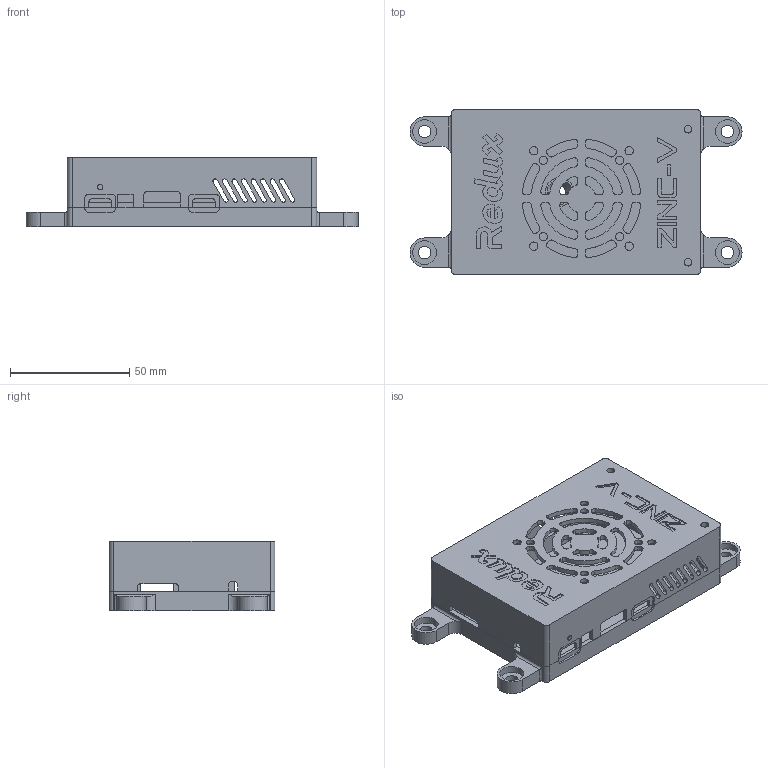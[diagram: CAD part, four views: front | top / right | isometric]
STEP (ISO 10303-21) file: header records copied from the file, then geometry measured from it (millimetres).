
FILE_DESCRIPTION(/* description */ ('STEP AP242','CAx-IF Rec.Pracs.---Representation and Presentation of Product Manufacturing Information (PMI)---4.0---2014-10-13','CAx-IF Rec.Pracs.---3D Tessellated Geometry---0.4---2014-09-14','2;1'),/* implementation_level */ '2;1');
FILE_NAME(/* name */ 'ZINCVOPICASE',/* time_stamp */ '2024-09-15T14:14:34Z');
FILE_SCHEMA (('AP242_MANAGED_MODEL_BASED_3D_ENGINEERING_MIM_LF { 1 0 10303 442 1 1 4 }'));
Length unit declared in the file: metre
Products named in the file (2): LockingOpi5-Base; LockingOpi5-Lid
Bounding box: 139.3 x 69.5 x 29.2 mm (x, y, z)
Volume: 49738.4 mm3; surface area: 49880.7 mm2
Topology: 2 solids, 2 shells, 705 faces, 2005 edges, 1334 vertices
Faces by surface type: plane 446, cylinder 251, cone 4, bspline 4
Entity records: 23221 total; most frequent: CARTESIAN_POINT 4162, ORIENTED_EDGE 4010, DIRECTION 3889, EDGE_CURVE 2005, LINE 1487, VECTOR 1487, VERTEX_POINT 1334, AXIS2_PLACEMENT_3D 1201
